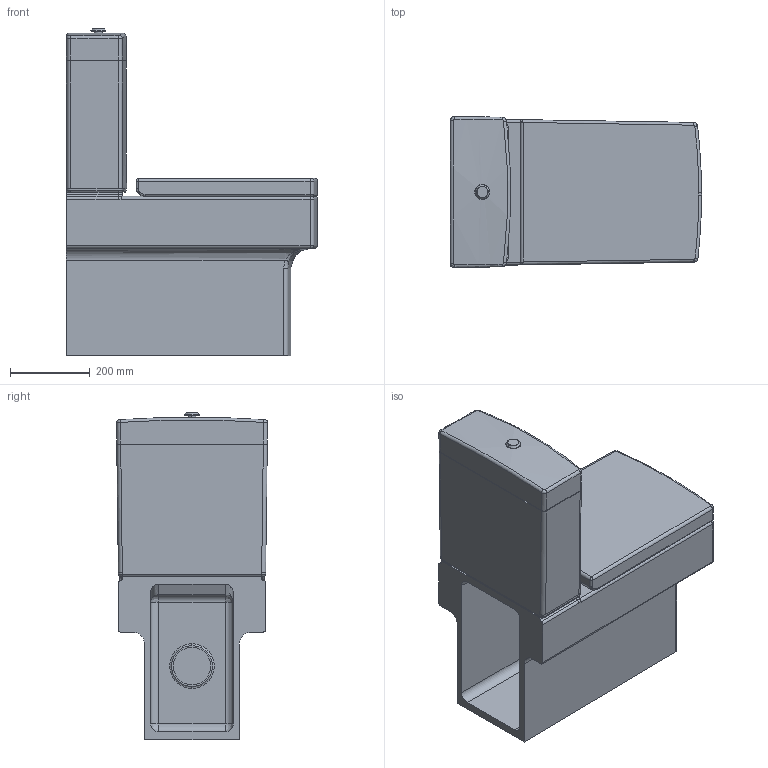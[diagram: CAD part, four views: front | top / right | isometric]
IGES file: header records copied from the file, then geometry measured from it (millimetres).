
Global section: file name: No Iges File Name specified; native system: AutoDesk Inventor R11.0; preprocessor: AutoDesk Inventor Iges Exporter R11.0; author: No Author specified; organization: No Organization specified; date: 20071009.175513; units: millimetre
Bounding box: 630 x 379.33 x 822 mm (x, y, z)
Volume: 62496535.4 mm3; surface area: 2552780.2 mm2
Topology: 4 solids, 4 shells, 309 faces, 709 edges, 422 vertices
Faces by surface type: plane 74, cylinder 68, bspline 66, revolution 55, torus 44, cone 2
